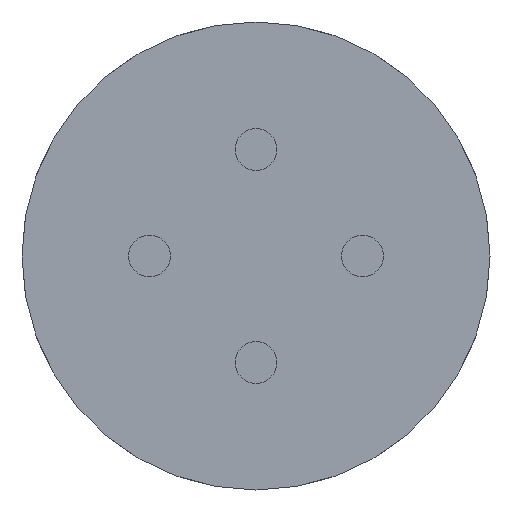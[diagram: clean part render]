
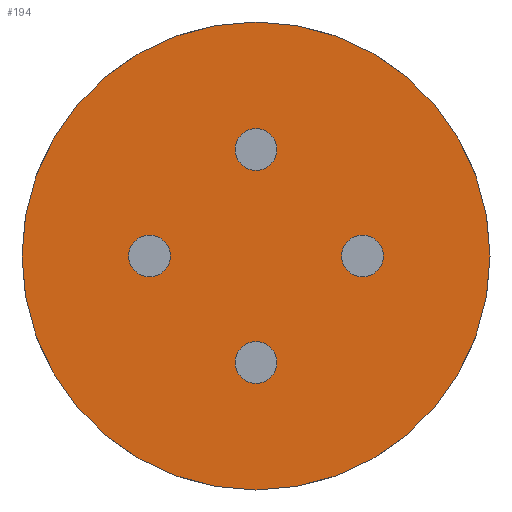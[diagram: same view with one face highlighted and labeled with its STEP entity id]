
A CAD part, left-side view. The second image highlights one B-rep face of the part: STEP entity #194.
In plain terms, the highlighted planar face has unit normal (-1, 0, 0).
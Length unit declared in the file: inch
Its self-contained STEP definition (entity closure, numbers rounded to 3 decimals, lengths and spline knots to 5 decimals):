
#4 = EDGE_CURVE ( 'NONE', #397, #266, #390, .T. ) ;
#5 = EDGE_CURVE ( 'NONE', #285, #339, #358, .T. ) ;
#6 = EDGE_CURVE ( 'NONE', #420, #261, #395, .T. ) ;
#7 = EDGE_CURVE ( 'NONE', #266, #397, #394, .T. ) ;
#8 = EDGE_CURVE ( 'NONE', #399, #356, #396, .T. ) ;
#31 = EDGE_CURVE ( 'NONE', #324, #410, #383, .T. ) ;
#39 = EDGE_CURVE ( 'NONE', #339, #285, #337, .T. ) ;
#49 = EDGE_CURVE ( 'NONE', #261, #420, #418, .T. ) ;
#56 = EDGE_CURVE ( 'NONE', #356, #399, #403, .T. ) ;
#57 = AXIS2_PLACEMENT_3D ( 'NONE', #119, #177, #142 ) ;
#60 = EDGE_CURVE ( 'NONE', #410, #324, #303, .T. ) ;
#61 = AXIS2_PLACEMENT_3D ( 'NONE', #223, #217, #214 ) ;
#62 = AXIS2_PLACEMENT_3D ( 'NONE', #251, #229, #228 ) ;
#65 = AXIS2_PLACEMENT_3D ( 'NONE', #245, #249, #235 ) ;
#68 = AXIS2_PLACEMENT_3D ( 'NONE', #234, #240, #246 ) ;
#69 = AXIS2_PLACEMENT_3D ( 'NONE', #222, #224, #230 ) ;
#73 = AXIS2_PLACEMENT_3D ( 'NONE', #225, #218, #213 ) ;
#75 = AXIS2_PLACEMENT_3D ( 'NONE', #149, #104, #156 ) ;
#86 = AXIS2_PLACEMENT_3D ( 'NONE', #173, #171, #170 ) ;
#87 = AXIS2_PLACEMENT_3D ( 'NONE', #176, #131, #152 ) ;
#98 = AXIS2_PLACEMENT_3D ( 'NONE', #102, #100, #143 ) ;
#100 = DIRECTION ( 'NONE',  ( 1., 0., 0. ) ) ;
#102 = CARTESIAN_POINT ( 'NONE',  ( 0., -0.328, 0. ) ) ;
#104 = DIRECTION ( 'NONE',  ( 1., 0., 0. ) ) ;
#119 = CARTESIAN_POINT ( 'NONE',  ( 0., 0., 0. ) ) ;
#120 = PLANE ( 'NONE',  #57 ) ;
#131 = DIRECTION ( 'NONE',  ( -1., 0., 0. ) ) ;
#142 = DIRECTION ( 'NONE',  ( 0., 0., 1. ) ) ;
#143 = DIRECTION ( 'NONE',  ( 0., 0., 1. ) ) ;
#149 = CARTESIAN_POINT ( 'NONE',  ( 0., 0., 0.328 ) ) ;
#152 = DIRECTION ( 'NONE',  ( 0., 0., 1. ) ) ;
#156 = DIRECTION ( 'NONE',  ( 0., 0., 1. ) ) ;
#170 = DIRECTION ( 'NONE',  ( 0., 0., 1. ) ) ;
#171 = DIRECTION ( 'NONE',  ( 1., 0., 0. ) ) ;
#173 = CARTESIAN_POINT ( 'NONE',  ( 0., 0.328, 0. ) ) ;
#176 = CARTESIAN_POINT ( 'NONE',  ( 0., 0., -0.328 ) ) ;
#177 = DIRECTION ( 'NONE',  ( -1., 0., 0. ) ) ;
#194 = ADVANCED_FACE ( 'NONE', ( #336, #332, #405, #335, #334 ), #120, .T. ) ;
#213 = DIRECTION ( 'NONE',  ( 0., 0., 1. ) ) ;
#214 = DIRECTION ( 'NONE',  ( 0., 0., 1. ) ) ;
#217 = DIRECTION ( 'NONE',  ( -1., 0., 0. ) ) ;
#218 = DIRECTION ( 'NONE',  ( 1., 0., 0. ) ) ;
#222 = CARTESIAN_POINT ( 'NONE',  ( 0., 0.328, 0. ) ) ;
#223 = CARTESIAN_POINT ( 'NONE',  ( 0., 0., 0. ) ) ;
#224 = DIRECTION ( 'NONE',  ( 1., 0., 0. ) ) ;
#225 = CARTESIAN_POINT ( 'NONE',  ( 0., -0.328, 0. ) ) ;
#228 = DIRECTION ( 'NONE',  ( 0., 0., 1. ) ) ;
#229 = DIRECTION ( 'NONE',  ( 1., 0., 0. ) ) ;
#230 = DIRECTION ( 'NONE',  ( 0., 0., 1. ) ) ;
#234 = CARTESIAN_POINT ( 'NONE',  ( 0., 0., 0. ) ) ;
#235 = DIRECTION ( 'NONE',  ( 0., 0., 1. ) ) ;
#240 = DIRECTION ( 'NONE',  ( -1., 0., 0. ) ) ;
#245 = CARTESIAN_POINT ( 'NONE',  ( 0., 0., -0.328 ) ) ;
#246 = DIRECTION ( 'NONE',  ( 0., 0., 1. ) ) ;
#249 = DIRECTION ( 'NONE',  ( -1., 0., 0. ) ) ;
#251 = CARTESIAN_POINT ( 'NONE',  ( 0., 0., 0.328 ) ) ;
#257 = ORIENTED_EDGE ( 'NONE', *, *, #5, .T. ) ;
#258 = ORIENTED_EDGE ( 'NONE', *, *, #39, .T. ) ;
#261 = VERTEX_POINT ( 'NONE', #511 ) ;
#262 = ORIENTED_EDGE ( 'NONE', *, *, #31, .T. ) ;
#264 = ORIENTED_EDGE ( 'NONE', *, *, #6, .F. ) ;
#266 = VERTEX_POINT ( 'NONE', #498 ) ;
#274 = ORIENTED_EDGE ( 'NONE', *, *, #60, .T. ) ;
#277 = ORIENTED_EDGE ( 'NONE', *, *, #8, .T. ) ;
#285 = VERTEX_POINT ( 'NONE', #543 ) ;
#295 = EDGE_LOOP ( 'NONE', ( #331, #413 ) ) ;
#303 = CIRCLE ( 'NONE', #98, 0.06425 ) ;
#307 = ORIENTED_EDGE ( 'NONE', *, *, #49, .F. ) ;
#320 = EDGE_LOOP ( 'NONE', ( #264, #307 ) ) ;
#324 = VERTEX_POINT ( 'NONE', #512 ) ;
#330 = EDGE_LOOP ( 'NONE', ( #340, #277 ) ) ;
#331 = ORIENTED_EDGE ( 'NONE', *, *, #7, .T. ) ;
#332 = FACE_BOUND ( 'NONE', #350, .T. ) ;
#334 = FACE_OUTER_BOUND ( 'NONE', #295, .T. ) ;
#335 = FACE_BOUND ( 'NONE', #320, .T. ) ;
#336 = FACE_BOUND ( 'NONE', #330, .T. ) ;
#337 = CIRCLE ( 'NONE', #75, 0.06425 ) ;
#339 = VERTEX_POINT ( 'NONE', #570 ) ;
#340 = ORIENTED_EDGE ( 'NONE', *, *, #56, .T. ) ;
#348 = EDGE_LOOP ( 'NONE', ( #262, #274 ) ) ;
#350 = EDGE_LOOP ( 'NONE', ( #258, #257 ) ) ;
#356 = VERTEX_POINT ( 'NONE', #485 ) ;
#358 = CIRCLE ( 'NONE', #62, 0.06425 ) ;
#383 = CIRCLE ( 'NONE', #73, 0.06425 ) ;
#390 = CIRCLE ( 'NONE', #61, 0.7205 ) ;
#394 = CIRCLE ( 'NONE', #68, 0.7205 ) ;
#395 = CIRCLE ( 'NONE', #65, 0.06425 ) ;
#396 = CIRCLE ( 'NONE', #69, 0.06425 ) ;
#397 = VERTEX_POINT ( 'NONE', #484 ) ;
#399 = VERTEX_POINT ( 'NONE', #522 ) ;
#403 = CIRCLE ( 'NONE', #86, 0.06425 ) ;
#405 = FACE_BOUND ( 'NONE', #348, .T. ) ;
#410 = VERTEX_POINT ( 'NONE', #525 ) ;
#413 = ORIENTED_EDGE ( 'NONE', *, *, #4, .T. ) ;
#418 = CIRCLE ( 'NONE', #87, 0.06425 ) ;
#420 = VERTEX_POINT ( 'NONE', #569 ) ;
#484 = CARTESIAN_POINT ( 'NONE',  ( 0., 0., -0.7205 ) ) ;
#485 = CARTESIAN_POINT ( 'NONE',  ( 0., 0.328, 0.06425 ) ) ;
#498 = CARTESIAN_POINT ( 'NONE',  ( 0., 0., 0.7205 ) ) ;
#511 = CARTESIAN_POINT ( 'NONE',  ( 0., 0., -0.39225 ) ) ;
#512 = CARTESIAN_POINT ( 'NONE',  ( 0., -0.328, 0.06425 ) ) ;
#522 = CARTESIAN_POINT ( 'NONE',  ( 0., 0.328, -0.06425 ) ) ;
#525 = CARTESIAN_POINT ( 'NONE',  ( 0., -0.328, -0.06425 ) ) ;
#543 = CARTESIAN_POINT ( 'NONE',  ( 0., 0., 0.26375 ) ) ;
#569 = CARTESIAN_POINT ( 'NONE',  ( 0., 0., -0.26375 ) ) ;
#570 = CARTESIAN_POINT ( 'NONE',  ( 0., 0., 0.39225 ) ) ;
